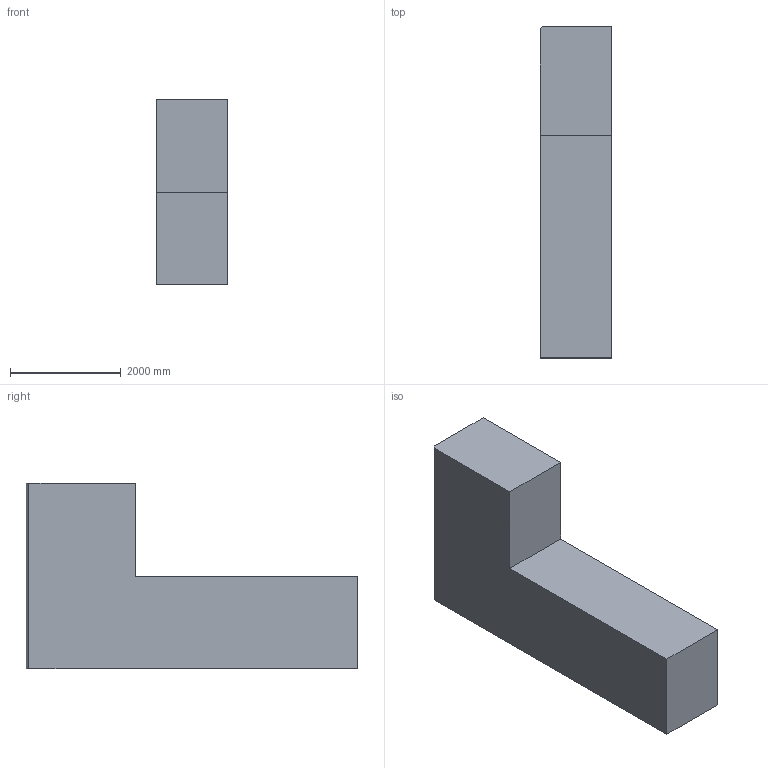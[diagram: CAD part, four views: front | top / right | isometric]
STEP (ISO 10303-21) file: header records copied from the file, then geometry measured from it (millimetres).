
FILE_DESCRIPTION(/* description */ (''),/* implementation_level */ '2;1');
FILE_NAME(/* name */ 'D:\Documents\Osservatorio di Brera\MAORY\Inventor2017\Maory versione 3\MORFEO STATIC AND DYNAMIC VOLUME\E-MAO-PU0-00-00-00-00-MOD-03_01 MORFEO cu extraction dynamic volume.stp',/* time_stamp */ '2023-03-27T10:35:33+02:00',/* author */ ('redae'),/* organization */ (''),/* preprocessor_version */ 'ST-DEVELOPER v18.1',/* originating_system */ 'Autodesk Inventor 2022',/* authorisation */ '');
FILE_SCHEMA (('AUTOMOTIVE_DESIGN { 1 0 10303 214 3 1 1 }'));
Length unit declared in the file: millimetre
Products named in the file (1): CU VOLUME
Bounding box: 1300 x 6000 x 3362.5 mm (x, y, z)
Volume: 17355537674.3 mm3; surface area: 50948808.2 mm2
Topology: 1 solids, 1 shells, 9 faces, 21 edges, 14 vertices
Faces by surface type: plane 9
Entity records: 296 total; most frequent: CARTESIAN_POINT 45, ORIENTED_EDGE 42, DIRECTION 41, LINE 21, VECTOR 21, EDGE_CURVE 21, VERTEX_POINT 14, AXIS2_PLACEMENT_3D 10
